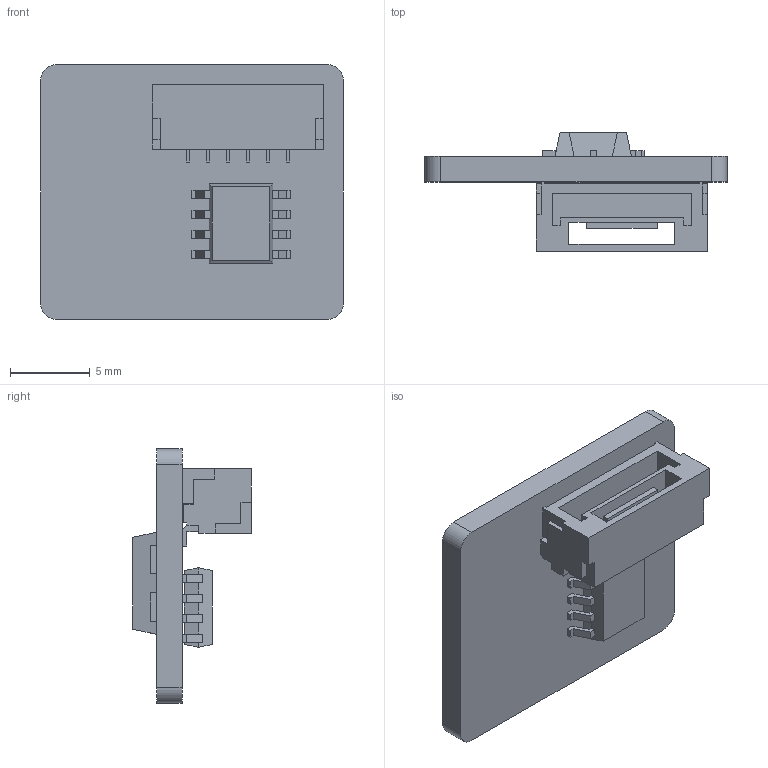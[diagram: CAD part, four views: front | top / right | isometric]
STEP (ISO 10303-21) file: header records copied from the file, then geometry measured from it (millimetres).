
FILE_DESCRIPTION (( 'STEP AP214' ), '1' );
FILE_NAME ('PSM-ASM-PSM-R1.STEP', '2018-07-02T16:32:13', ( '' ), ( '' ), 'SwSTEP 2.0', 'SolidWorks 2016', '' );
FILE_SCHEMA (( 'AUTOMOTIVE_DESIGN' ));
Length unit declared in the file: metre
Products named in the file (5): PSM-ASM-PSM-R1; PSM-ELEC-6-PIN-CONNECTOR-R1; PSM-ELEC-BODY-R1; PSM-ELEC-HALL-SENSOR-R1; PSM-ELEC-LINEAR-REG-R1
Assembly tree (4 placements, depth 2):
  PSM-ASM-PSM-R1
    PSM-ELEC-BODY-R1
    PSM-ELEC-6-PIN-CONNECTOR-R1
    PSM-ELEC-HALL-SENSOR-R1
    PSM-ELEC-LINEAR-REG-R1
Bounding box: 19 x 7.45 x 16 mm (x, y, z)
Volume: 663.3 mm3; surface area: 1233.4 mm2
Topology: 4 solids, 4 shells, 276 faces, 764 edges, 498 vertices
Faces by surface type: plane 272, cylinder 4
Entity records: 11690 total; most frequent: CARTESIAN_POINT 1545, ORIENTED_EDGE 1528, DIRECTION 1338, EDGE_CURVE 764, LINE 756, VECTOR 756, VERTEX_POINT 498, AXIS2_PLACEMENT_3D 291
